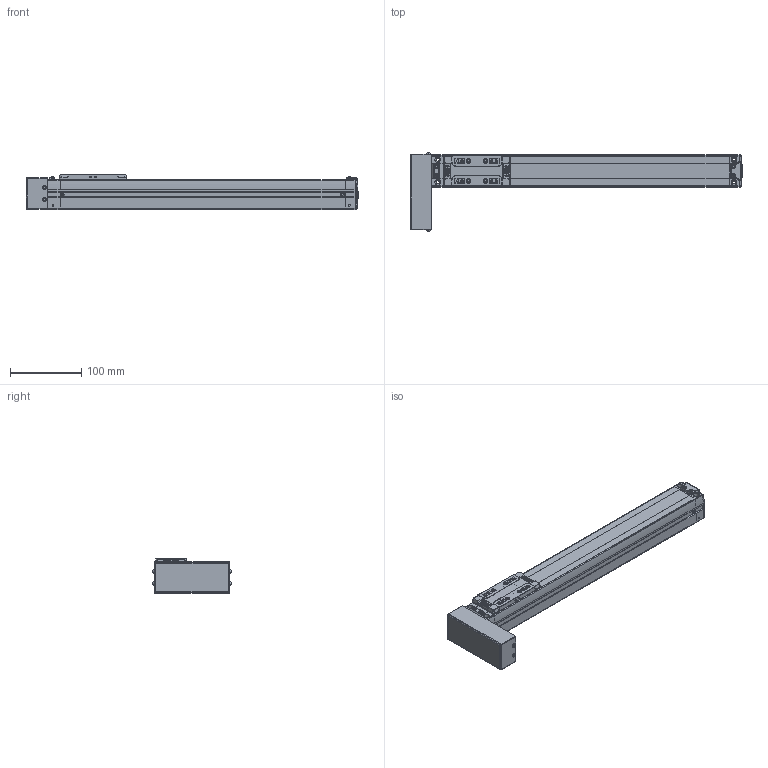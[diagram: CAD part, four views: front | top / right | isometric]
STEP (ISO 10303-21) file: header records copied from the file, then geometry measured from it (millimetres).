
FILE_DESCRIPTION(('STEP AP214'),'1');
FILE_NAME('Z:/Web/3D/SAN45/2013.ver/STP/SAN45ㅁㅁ-300PR.stp','2013-05-15T09:05:06',(' '),(' '),'Spatial InterOp 3D',' ',' ');
FILE_SCHEMA(('automotive_design'));
Length unit declared in the file: millimetre
Products named in the file (28): BODY-SAN45; REAR-SAN45; RRCV-SAN45; BHCS M3 x 6L; BHCS M3 X 6L; FRONT-SAN45; SHAFT; RN8 x 0.75; SSFX-SAN45; SLIDE-SAN45; SLCV-IM45; FHCS M3 x 6L; BTCV-SAN45
Bounding box: 466.15 x 110.13 x 50 mm (x, y, z)
Volume: 927189.7 mm3; surface area: 148977.2 mm2
Topology: 28 solids, 28 shells, 1709 faces, 4443 edges, 2867 vertices
Faces by surface type: plane 887, cylinder 598, cone 126, bspline 40, sphere 40, torus 12, extrusion 6
Entity records: 70418 total; most frequent: CARTESIAN_POINT 13404, DIRECTION 9233, ORIENTED_EDGE 8786, EDGE_CURVE 4393, AXIS2_PLACEMENT_3D 3251, VERTEX_POINT 2867, VECTOR 2731, LINE 2725
